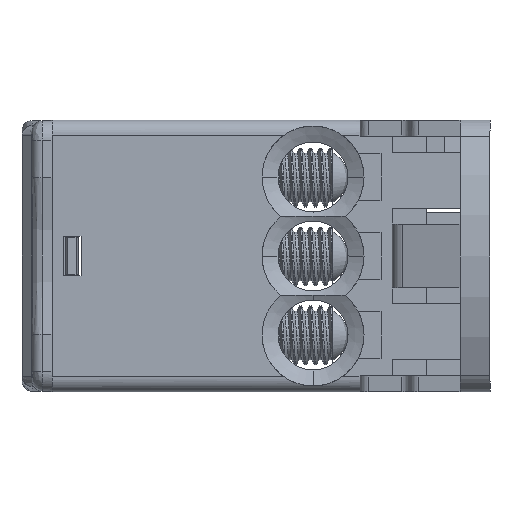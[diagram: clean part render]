
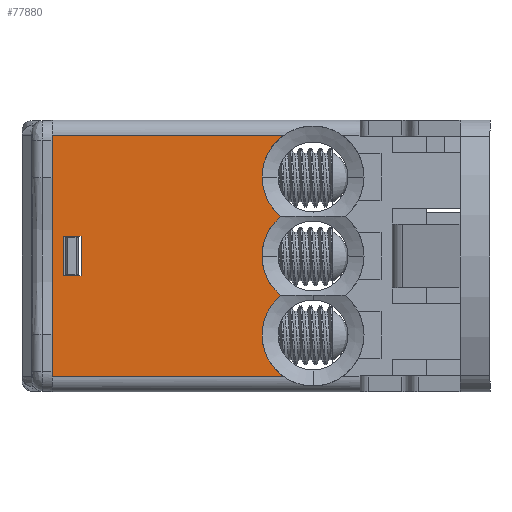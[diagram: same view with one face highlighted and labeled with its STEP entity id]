
A CAD part, left-side view. The second image highlights one B-rep face of the part: STEP entity #77880.
In plain terms, the highlighted planar face has unit normal (-1, 0, 0).
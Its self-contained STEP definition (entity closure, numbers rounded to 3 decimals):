
#1141 = DIRECTION ( 'NONE',  ( 0., 0., 1. ) ) ;
#1400 = EDGE_CURVE ( 'NONE', #138729, #165777, #82611, .T. ) ;
#1686 = CARTESIAN_POINT ( 'NONE',  ( -131.579, -10.938, -224.25 ) ) ;
#2757 = DIRECTION ( 'NONE',  ( 0., -1., 0. ) ) ;
#8625 = ORIENTED_EDGE ( 'NONE', *, *, #67517, .T. ) ;
#11754 = VECTOR ( 'NONE', #67317, 1000. ) ;
#12023 = VERTEX_POINT ( 'NONE', #134394 ) ;
#13276 = CARTESIAN_POINT ( 'NONE',  ( -131.579, 15.162, -236.35 ) ) ;
#13279 = DIRECTION ( 'NONE',  ( -1., 0., 0. ) ) ;
#15723 = DIRECTION ( 'NONE',  ( 0., -1., 0. ) ) ;
#17639 = DIRECTION ( 'NONE',  ( 0., 0., 1. ) ) ;
#18465 = VECTOR ( 'NONE', #127705, 1000. ) ;
#18563 = DIRECTION ( 'NONE',  ( 1., 0., 0. ) ) ;
#19414 = VERTEX_POINT ( 'NONE', #80038 ) ;
#23406 = ORIENTED_EDGE ( 'NONE', *, *, #109085, .T. ) ;
#24940 = LINE ( 'NONE', #97370, #11754 ) ;
#25576 = FACE_OUTER_BOUND ( 'NONE', #147649, .T. ) ;
#27983 = CARTESIAN_POINT ( 'NONE',  ( -131.579, -8.045, -236.35 ) ) ;
#28443 = CARTESIAN_POINT ( 'NONE',  ( -131.579, 14.062, -212.15 ) ) ;
#28533 = CARTESIAN_POINT ( 'NONE',  ( -131.579, -7.712, -220.3 ) ) ;
#30410 = AXIS2_PLACEMENT_3D ( 'NONE', #45117, #115708, #2757 ) ;
#31048 = VERTEX_POINT ( 'NONE', #28533 ) ;
#33171 = CARTESIAN_POINT ( 'NONE',  ( -131.579, -7.712, -228.2 ) ) ;
#35549 = CARTESIAN_POINT ( 'NONE',  ( -131.579, -10.938, -216.35 ) ) ;
#37112 = ORIENTED_EDGE ( 'NONE', *, *, #1400, .T. ) ;
#39349 = VERTEX_POINT ( 'NONE', #33171 ) ;
#40286 = CIRCLE ( 'NONE', #145498, 5.1 ) ;
#44418 = LINE ( 'NONE', #28443, #138590 ) ;
#45117 = CARTESIAN_POINT ( 'NONE',  ( -131.579, -10.938, -232.15 ) ) ;
#47818 = DIRECTION ( 'NONE',  ( 1., 0., 0. ) ) ;
#51355 = DIRECTION ( 'NONE',  ( 0., 0., 1. ) ) ;
#57602 = ORIENTED_EDGE ( 'NONE', *, *, #141471, .T. ) ;
#58510 = CARTESIAN_POINT ( 'NONE',  ( -131.579, -5.838, -232.15 ) ) ;
#59874 = DIRECTION ( 'NONE',  ( 0., -1., 0. ) ) ;
#60150 = VECTOR ( 'NONE', #59874, 1000. ) ;
#63209 = EDGE_CURVE ( 'NONE', #184749, #143765, #44418, .T. ) ;
#66569 = CIRCLE ( 'NONE', #30410, 5.1 ) ;
#66935 = EDGE_CURVE ( 'NONE', #69056, #99252, #66569, .T. ) ;
#67317 = DIRECTION ( 'NONE',  ( 0., 1., 0. ) ) ;
#67463 = VECTOR ( 'NONE', #126185, 1000. ) ;
#67517 = EDGE_CURVE ( 'NONE', #99252, #39349, #117612, .T. ) ;
#69056 = VERTEX_POINT ( 'NONE', #27983 ) ;
#70320 = CARTESIAN_POINT ( 'NONE',  ( -131.579, 12.262, -212.15 ) ) ;
#75530 = VECTOR ( 'NONE', #51355, 1000. ) ;
#75759 = ORIENTED_EDGE ( 'NONE', *, *, #66935, .T. ) ;
#76309 = VECTOR ( 'NONE', #113039, 1000. ) ;
#77880 = ADVANCED_FACE ( 'NONE', ( #124419, #25576 ), #183693, .T. ) ;
#78255 = ORIENTED_EDGE ( 'NONE', *, *, #93360, .F. ) ;
#80038 = CARTESIAN_POINT ( 'NONE',  ( -131.579, 15.162, -236.35 ) ) ;
#82611 = LINE ( 'NONE', #70320, #18465 ) ;
#83004 = DIRECTION ( 'NONE',  ( 0., 0., 1. ) ) ;
#88620 = VERTEX_POINT ( 'NONE', #96509 ) ;
#93360 = EDGE_CURVE ( 'NONE', #19414, #12023, #93724, .T. ) ;
#93724 = LINE ( 'NONE', #137030, #75530 ) ;
#96509 = CARTESIAN_POINT ( 'NONE',  ( -131.579, -8.045, -212.15 ) ) ;
#97370 = CARTESIAN_POINT ( 'NONE',  ( -131.579, -8.184, -226.25 ) ) ;
#99252 = VERTEX_POINT ( 'NONE', #58510 ) ;
#100356 = CARTESIAN_POINT ( 'NONE',  ( -131.579, -8.184, -222.25 ) ) ;
#109085 = EDGE_CURVE ( 'NONE', #143765, #138729, #130484, .T. ) ;
#110812 = CARTESIAN_POINT ( 'NONE',  ( -131.579, 12.262, -226.25 ) ) ;
#113039 = DIRECTION ( 'NONE',  ( 0., 1., 0. ) ) ;
#115708 = DIRECTION ( 'NONE',  ( 1., 0., 0. ) ) ;
#117345 = CARTESIAN_POINT ( 'NONE',  ( -131.579, -10.938, -232.15 ) ) ;
#117612 = CIRCLE ( 'NONE', #183734, 5.1 ) ;
#119873 = EDGE_CURVE ( 'NONE', #31048, #88620, #134566, .T. ) ;
#122301 = CARTESIAN_POINT ( 'NONE',  ( -131.579, 12.262, -222.25 ) ) ;
#124419 = FACE_BOUND ( 'NONE', #158604, .T. ) ;
#126185 = DIRECTION ( 'NONE',  ( 0., 1., 0. ) ) ;
#127497 = EDGE_CURVE ( 'NONE', #165777, #184749, #24940, .T. ) ;
#127705 = DIRECTION ( 'NONE',  ( 0., 0., -1. ) ) ;
#128617 = AXIS2_PLACEMENT_3D ( 'NONE', #35549, #47818, #165452 ) ;
#130484 = LINE ( 'NONE', #100356, #60150 ) ;
#134394 = CARTESIAN_POINT ( 'NONE',  ( -131.579, 15.162, -212.15 ) ) ;
#134566 = CIRCLE ( 'NONE', #128617, 5.1 ) ;
#137030 = CARTESIAN_POINT ( 'NONE',  ( -131.579, 15.162, -237.85 ) ) ;
#138590 = VECTOR ( 'NONE', #1141, 1000. ) ;
#138729 = VERTEX_POINT ( 'NONE', #122301 ) ;
#138776 = AXIS2_PLACEMENT_3D ( 'NONE', #181854, #13279, #83004 ) ;
#140794 = ORIENTED_EDGE ( 'NONE', *, *, #147205, .F. ) ;
#141445 = ORIENTED_EDGE ( 'NONE', *, *, #119873, .T. ) ;
#141471 = EDGE_CURVE ( 'NONE', #88620, #12023, #155371, .T. ) ;
#143765 = VERTEX_POINT ( 'NONE', #185960 ) ;
#145498 = AXIS2_PLACEMENT_3D ( 'NONE', #1686, #18563, #17639 ) ;
#147205 = EDGE_CURVE ( 'NONE', #69056, #19414, #169592, .T. ) ;
#147649 = EDGE_LOOP ( 'NONE', ( #159269, #141445, #57602, #78255, #140794, #75759, #8625 ) ) ;
#148237 = EDGE_CURVE ( 'NONE', #39349, #31048, #40286, .T. ) ;
#154702 = CARTESIAN_POINT ( 'NONE',  ( -131.579, 14.062, -226.25 ) ) ;
#155371 = LINE ( 'NONE', #180847, #67463 ) ;
#158604 = EDGE_LOOP ( 'NONE', ( #183227, #23406, #37112, #182887 ) ) ;
#159269 = ORIENTED_EDGE ( 'NONE', *, *, #148237, .T. ) ;
#159734 = DIRECTION ( 'NONE',  ( 1., 0., 0. ) ) ;
#165452 = DIRECTION ( 'NONE',  ( 0., 0., 1. ) ) ;
#165777 = VERTEX_POINT ( 'NONE', #110812 ) ;
#169592 = LINE ( 'NONE', #13276, #76309 ) ;
#180847 = CARTESIAN_POINT ( 'NONE',  ( -131.579, -8.184, -212.15 ) ) ;
#181854 = CARTESIAN_POINT ( 'NONE',  ( -131.579, -8.184, -212.15 ) ) ;
#182887 = ORIENTED_EDGE ( 'NONE', *, *, #127497, .T. ) ;
#183227 = ORIENTED_EDGE ( 'NONE', *, *, #63209, .T. ) ;
#183693 = PLANE ( 'NONE',  #138776 ) ;
#183734 = AXIS2_PLACEMENT_3D ( 'NONE', #117345, #159734, #15723 ) ;
#184749 = VERTEX_POINT ( 'NONE', #154702 ) ;
#185960 = CARTESIAN_POINT ( 'NONE',  ( -131.579, 14.062, -222.25 ) ) ;
